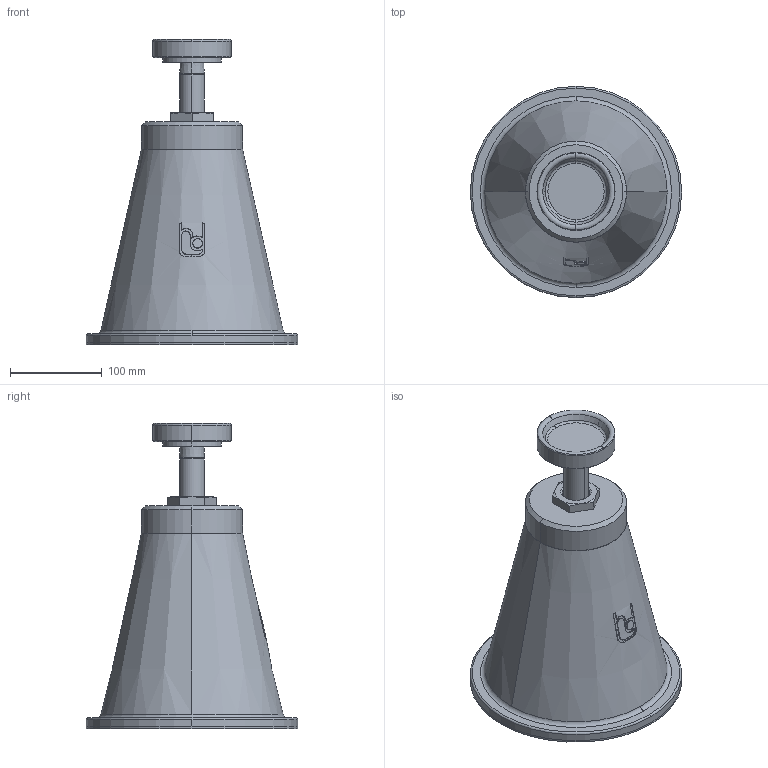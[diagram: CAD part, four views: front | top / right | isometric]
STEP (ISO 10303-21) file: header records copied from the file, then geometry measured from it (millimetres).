
FILE_DESCRIPTION(('STEP AP214'),'1');
FILE_NAME('RSRFA-05-V0.stp','2018-06-25T11:02:19',(' '),(' '),'Spatial InterOp 3D',' ',' ');
FILE_SCHEMA(('automotive_design'));
Length unit declared in the file: millimetre
Products named in the file (6): 1; 2; 3; 4; 5; 6
Bounding box: 230 x 230 x 332.49 mm (x, y, z)
Volume: 4928810.3 mm3; surface area: 333482.5 mm2
Topology: 6 solids, 7 shells, 122 faces, 289 edges, 185 vertices
Faces by surface type: plane 42, cylinder 37, cone 29, torus 14
Entity records: 5018 total; most frequent: CARTESIAN_POINT 1060, DIRECTION 636, ORIENTED_EDGE 578, EDGE_CURVE 289, AXIS2_PLACEMENT_3D 261, VERTEX_POINT 185, EDGE_LOOP 130, STYLED_ITEM 128
